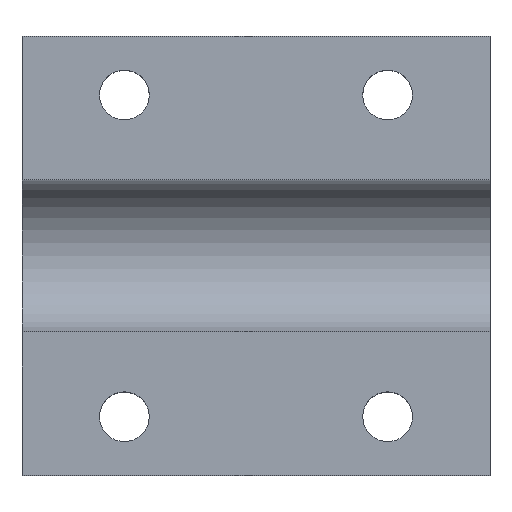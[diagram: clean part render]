
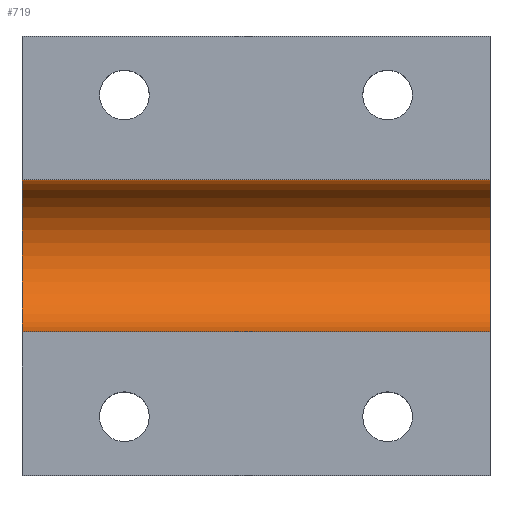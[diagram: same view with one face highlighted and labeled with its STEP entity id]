
A CAD part, top view. The second image highlights one B-rep face of the part: STEP entity #719.
In plain terms, the highlighted cylindrical face has radius 5.2 mm (diameter 10.4 mm), a partial arc.
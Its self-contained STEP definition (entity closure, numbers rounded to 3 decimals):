
#32 = PLANE('',#33);
#33 = AXIS2_PLACEMENT_3D('',#34,#35,#36);
#34 = CARTESIAN_POINT('',(-16.,-15.,-10.));
#35 = DIRECTION('',(1.,0.,0.));
#36 = DIRECTION('',(0.,0.,1.));
#113 = VERTEX_POINT('',#114);
#114 = CARTESIAN_POINT('',(-16.,5.2,0.));
#127 = PLANE('',#128);
#128 = AXIS2_PLACEMENT_3D('',#129,#130,#131);
#129 = CARTESIAN_POINT('',(-20.,-20.,0.));
#130 = DIRECTION('',(0.,0.,1.));
#131 = DIRECTION('',(1.,0.,0.));
#138 = EDGE_CURVE('',#139,#113,#141,.T.);
#139 = VERTEX_POINT('',#140);
#140 = CARTESIAN_POINT('',(-16.,-5.2,0.));
#141 = SURFACE_CURVE('',#142,(#147,#154),.PCURVE_S1.);
#142 = CIRCLE('',#143,5.2);
#143 = AXIS2_PLACEMENT_3D('',#144,#145,#146);
#144 = CARTESIAN_POINT('',(-16.,0.,0.));
#145 = DIRECTION('',(1.,0.,0.));
#146 = DIRECTION('',(0.,-1.,0.));
#147 = PCURVE('',#32,#148);
#148 = DEFINITIONAL_REPRESENTATION('',(#149),#153);
#149 = CIRCLE('',#150,5.2);
#150 = AXIS2_PLACEMENT_2D('',#151,#152);
#151 = CARTESIAN_POINT('',(10.,-15.));
#152 = DIRECTION('',(0.,1.));
#153 = ( GEOMETRIC_REPRESENTATION_CONTEXT(2) 
PARAMETRIC_REPRESENTATION_CONTEXT() REPRESENTATION_CONTEXT('2D SPACE',''
  ) );
#154 = PCURVE('',#155,#160);
#155 = CYLINDRICAL_SURFACE('',#156,5.2);
#156 = AXIS2_PLACEMENT_3D('',#157,#158,#159);
#157 = CARTESIAN_POINT('',(-18.,0.,0.));
#158 = DIRECTION('',(-1.,-0.,0.));
#159 = DIRECTION('',(0.,0.,-1.));
#160 = DEFINITIONAL_REPRESENTATION('',(#161),#165);
#161 = LINE('',#162,#163);
#162 = CARTESIAN_POINT('',(-4.712,-2.));
#163 = VECTOR('',#164,1.);
#164 = DIRECTION('',(-1.,-0.));
#165 = ( GEOMETRIC_REPRESENTATION_CONTEXT(2) 
PARAMETRIC_REPRESENTATION_CONTEXT() REPRESENTATION_CONTEXT('2D SPACE',''
  ) );
#180 = PLANE('',#181);
#181 = AXIS2_PLACEMENT_3D('',#182,#183,#184);
#182 = CARTESIAN_POINT('',(-20.,-20.,0.));
#183 = DIRECTION('',(0.,0.,1.));
#184 = DIRECTION('',(1.,0.,0.));
#212 = PLANE('',#213);
#213 = AXIS2_PLACEMENT_3D('',#214,#215,#216);
#214 = CARTESIAN_POINT('',(16.,-15.,-10.));
#215 = DIRECTION('',(1.,0.,0.));
#216 = DIRECTION('',(0.,0.,1.));
#620 = EDGE_CURVE('',#621,#113,#623,.T.);
#621 = VERTEX_POINT('',#622);
#622 = CARTESIAN_POINT('',(16.,5.2,0.));
#623 = SURFACE_CURVE('',#624,(#628,#634),.PCURVE_S1.);
#624 = LINE('',#625,#626);
#625 = CARTESIAN_POINT('',(-18.,5.2,0.));
#626 = VECTOR('',#627,1.);
#627 = DIRECTION('',(-1.,-0.,0.));
#628 = PCURVE('',#127,#629);
#629 = DEFINITIONAL_REPRESENTATION('',(#630),#633);
#630 = B_SPLINE_CURVE_WITH_KNOTS('',1,(#631,#632),.UNSPECIFIED.,.F.,.F.,
  (2,2),(-34.,-2.),.PIECEWISE_BEZIER_KNOTS.);
#631 = CARTESIAN_POINT('',(36.,25.2));
#632 = CARTESIAN_POINT('',(4.,25.2));
#633 = ( GEOMETRIC_REPRESENTATION_CONTEXT(2) 
PARAMETRIC_REPRESENTATION_CONTEXT() REPRESENTATION_CONTEXT('2D SPACE',''
  ) );
#634 = PCURVE('',#155,#635);
#635 = DEFINITIONAL_REPRESENTATION('',(#636),#639);
#636 = B_SPLINE_CURVE_WITH_KNOTS('',1,(#637,#638),.UNSPECIFIED.,.F.,.F.,
  (2,2),(-34.,-2.),.PIECEWISE_BEZIER_KNOTS.);
#637 = CARTESIAN_POINT('',(-7.854,-34.));
#638 = CARTESIAN_POINT('',(-7.854,-2.));
#639 = ( GEOMETRIC_REPRESENTATION_CONTEXT(2) 
PARAMETRIC_REPRESENTATION_CONTEXT() REPRESENTATION_CONTEXT('2D SPACE',''
  ) );
#719 = ADVANCED_FACE('',(#720),#155,.F.);
#720 = FACE_BOUND('',#721,.T.);
#721 = EDGE_LOOP('',(#722,#746,#747,#748));
#722 = ORIENTED_EDGE('',*,*,#723,.T.);
#723 = EDGE_CURVE('',#724,#621,#726,.T.);
#724 = VERTEX_POINT('',#725);
#725 = CARTESIAN_POINT('',(16.,-5.2,0.));
#726 = SURFACE_CURVE('',#727,(#732,#739),.PCURVE_S1.);
#727 = CIRCLE('',#728,5.2);
#728 = AXIS2_PLACEMENT_3D('',#729,#730,#731);
#729 = CARTESIAN_POINT('',(16.,0.,0.));
#730 = DIRECTION('',(1.,0.,0.));
#731 = DIRECTION('',(0.,-1.,0.));
#732 = PCURVE('',#155,#733);
#733 = DEFINITIONAL_REPRESENTATION('',(#734),#738);
#734 = LINE('',#735,#736);
#735 = CARTESIAN_POINT('',(-4.712,-34.));
#736 = VECTOR('',#737,1.);
#737 = DIRECTION('',(-1.,-0.));
#738 = ( GEOMETRIC_REPRESENTATION_CONTEXT(2) 
PARAMETRIC_REPRESENTATION_CONTEXT() REPRESENTATION_CONTEXT('2D SPACE',''
  ) );
#739 = PCURVE('',#212,#740);
#740 = DEFINITIONAL_REPRESENTATION('',(#741),#745);
#741 = CIRCLE('',#742,5.2);
#742 = AXIS2_PLACEMENT_2D('',#743,#744);
#743 = CARTESIAN_POINT('',(10.,-15.));
#744 = DIRECTION('',(0.,1.));
#745 = ( GEOMETRIC_REPRESENTATION_CONTEXT(2) 
PARAMETRIC_REPRESENTATION_CONTEXT() REPRESENTATION_CONTEXT('2D SPACE',''
  ) );
#746 = ORIENTED_EDGE('',*,*,#620,.T.);
#747 = ORIENTED_EDGE('',*,*,#138,.F.);
#748 = ORIENTED_EDGE('',*,*,#749,.F.);
#749 = EDGE_CURVE('',#724,#139,#750,.T.);
#750 = SURFACE_CURVE('',#751,(#755,#761),.PCURVE_S1.);
#751 = LINE('',#752,#753);
#752 = CARTESIAN_POINT('',(-18.,-5.2,0.));
#753 = VECTOR('',#754,1.);
#754 = DIRECTION('',(-1.,-0.,0.));
#755 = PCURVE('',#155,#756);
#756 = DEFINITIONAL_REPRESENTATION('',(#757),#760);
#757 = B_SPLINE_CURVE_WITH_KNOTS('',1,(#758,#759),.UNSPECIFIED.,.F.,.F.,
  (2,2),(-34.,-2.),.PIECEWISE_BEZIER_KNOTS.);
#758 = CARTESIAN_POINT('',(-4.712,-34.));
#759 = CARTESIAN_POINT('',(-4.712,-2.));
#760 = ( GEOMETRIC_REPRESENTATION_CONTEXT(2) 
PARAMETRIC_REPRESENTATION_CONTEXT() REPRESENTATION_CONTEXT('2D SPACE',''
  ) );
#761 = PCURVE('',#180,#762);
#762 = DEFINITIONAL_REPRESENTATION('',(#763),#766);
#763 = B_SPLINE_CURVE_WITH_KNOTS('',1,(#764,#765),.UNSPECIFIED.,.F.,.F.,
  (2,2),(-34.,-2.),.PIECEWISE_BEZIER_KNOTS.);
#764 = CARTESIAN_POINT('',(36.,14.8));
#765 = CARTESIAN_POINT('',(4.,14.8));
#766 = ( GEOMETRIC_REPRESENTATION_CONTEXT(2) 
PARAMETRIC_REPRESENTATION_CONTEXT() REPRESENTATION_CONTEXT('2D SPACE',''
  ) );
